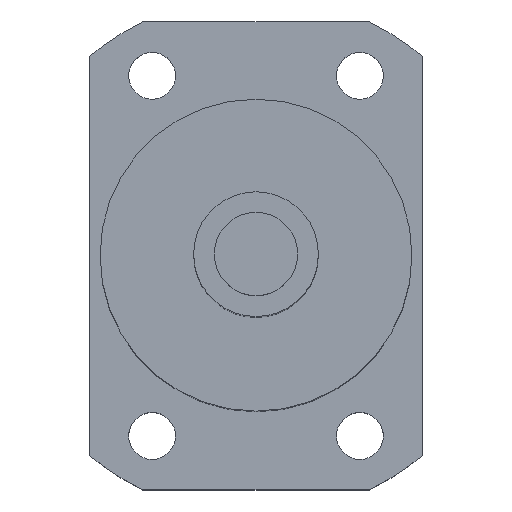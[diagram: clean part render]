
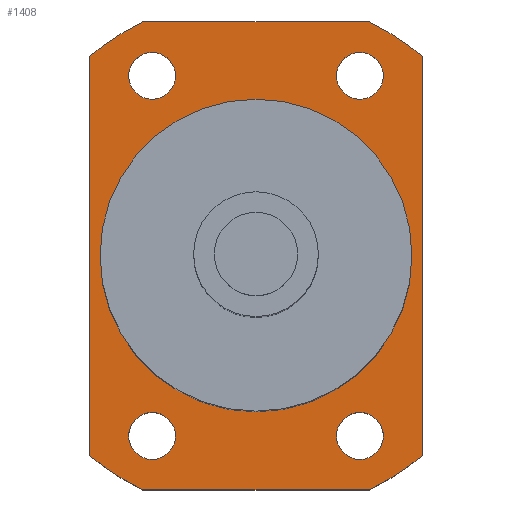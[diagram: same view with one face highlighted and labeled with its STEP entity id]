
A CAD part, top view. The second image highlights one B-rep face of the part: STEP entity #1408.
In plain terms, the highlighted planar face has unit normal (0, 0, 1).
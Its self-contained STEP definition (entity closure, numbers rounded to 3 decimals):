
#328=CARTESIAN_POINT('',(10.,17.321,125.));
#329=DIRECTION('',(0.,0.,-1.));
#330=DIRECTION('',(1.,0.,0.));
#331=AXIS2_PLACEMENT_3D('',#328,#329,#330);
#333=CARTESIAN_POINT('',(10.,17.321,125.));
#334=DIRECTION('',(0.,0.,-1.));
#335=DIRECTION('',(-1.,0.,0.));
#336=AXIS2_PLACEMENT_3D('',#333,#334,#335);
#338=CARTESIAN_POINT('',(-10.,17.321,125.));
#339=DIRECTION('',(0.,0.,-1.));
#340=DIRECTION('',(1.,0.,0.));
#341=AXIS2_PLACEMENT_3D('',#338,#339,#340);
#343=CARTESIAN_POINT('',(-10.,17.321,125.));
#344=DIRECTION('',(0.,0.,-1.));
#345=DIRECTION('',(-1.,0.,0.));
#346=AXIS2_PLACEMENT_3D('',#343,#344,#345);
#348=CARTESIAN_POINT('',(10.,-17.321,125.));
#349=DIRECTION('',(0.,0.,-1.));
#350=DIRECTION('',(1.,0.,0.));
#351=AXIS2_PLACEMENT_3D('',#348,#349,#350);
#353=CARTESIAN_POINT('',(10.,-17.321,125.));
#354=DIRECTION('',(0.,0.,-1.));
#355=DIRECTION('',(-1.,0.,0.));
#356=AXIS2_PLACEMENT_3D('',#353,#354,#355);
#358=CARTESIAN_POINT('',(-10.,-17.321,125.));
#359=DIRECTION('',(0.,0.,-1.));
#360=DIRECTION('',(1.,0.,0.));
#361=AXIS2_PLACEMENT_3D('',#358,#359,#360);
#363=CARTESIAN_POINT('',(-10.,-17.321,125.));
#364=DIRECTION('',(0.,0.,-1.));
#365=DIRECTION('',(-1.,0.,0.));
#366=AXIS2_PLACEMENT_3D('',#363,#364,#365);
#368=CARTESIAN_POINT('',(0.,0.,125.));
#369=DIRECTION('',(0.,0.,1.));
#370=DIRECTION('',(1.,0.,0.));
#371=AXIS2_PLACEMENT_3D('',#368,#369,#370);
#373=CARTESIAN_POINT('',(0.,0.,125.));
#374=DIRECTION('',(0.,0.,1.));
#375=DIRECTION('',(-1.,0.,0.));
#376=AXIS2_PLACEMENT_3D('',#373,#374,#375);
#378=DIRECTION('',(1.,0.,0.));
#379=VECTOR('',#378,21.794);
#380=CARTESIAN_POINT('',(-10.897,22.5,125.));
#381=LINE('',#380,#379);
#382=CARTESIAN_POINT('',(0.,0.,125.));
#383=DIRECTION('',(0.,0.,1.));
#384=DIRECTION('',(0.64,0.768,0.));
#385=AXIS2_PLACEMENT_3D('',#382,#383,#384);
#387=DIRECTION('',(0.,1.,0.));
#388=VECTOR('',#387,38.419);
#389=CARTESIAN_POINT('',(16.,-19.209,125.));
#390=LINE('',#389,#388);
#391=CARTESIAN_POINT('',(0.,0.,125.));
#392=DIRECTION('',(0.,0.,1.));
#393=DIRECTION('',(0.436,-0.9,0.));
#394=AXIS2_PLACEMENT_3D('',#391,#392,#393);
#396=DIRECTION('',(1.,0.,0.));
#397=VECTOR('',#396,21.794);
#398=CARTESIAN_POINT('',(-10.897,-22.5,125.));
#399=LINE('',#398,#397);
#400=CARTESIAN_POINT('',(0.,0.,125.));
#401=DIRECTION('',(0.,0.,1.));
#402=DIRECTION('',(-0.64,-0.768,0.));
#403=AXIS2_PLACEMENT_3D('',#400,#401,#402);
#405=DIRECTION('',(0.,-1.,0.));
#406=VECTOR('',#405,38.419);
#407=CARTESIAN_POINT('',(-16.,19.209,125.));
#408=LINE('',#407,#406);
#409=CARTESIAN_POINT('',(0.,0.,125.));
#410=DIRECTION('',(0.,0.,1.));
#411=DIRECTION('',(-0.436,0.9,0.));
#412=AXIS2_PLACEMENT_3D('',#409,#410,#411);
#721=CARTESIAN_POINT('',(12.25,17.321,125.));
#722=CARTESIAN_POINT('',(7.75,17.321,125.));
#723=VERTEX_POINT('',#721);
#724=VERTEX_POINT('',#722);
#725=CARTESIAN_POINT('',(-7.75,17.321,125.));
#726=CARTESIAN_POINT('',(-12.25,17.321,125.));
#727=VERTEX_POINT('',#725);
#728=VERTEX_POINT('',#726);
#729=CARTESIAN_POINT('',(12.25,-17.321,125.));
#730=CARTESIAN_POINT('',(7.75,-17.321,125.));
#731=VERTEX_POINT('',#729);
#732=VERTEX_POINT('',#730);
#733=CARTESIAN_POINT('',(-7.75,-17.321,125.));
#734=CARTESIAN_POINT('',(-12.25,-17.321,125.));
#735=VERTEX_POINT('',#733);
#736=VERTEX_POINT('',#734);
#737=CARTESIAN_POINT('',(-16.,19.209,125.));
#738=CARTESIAN_POINT('',(-16.,-19.209,125.));
#739=VERTEX_POINT('',#737);
#740=VERTEX_POINT('',#738);
#741=CARTESIAN_POINT('',(16.,-19.209,125.));
#742=CARTESIAN_POINT('',(16.,19.209,125.));
#743=VERTEX_POINT('',#741);
#744=VERTEX_POINT('',#742);
#753=CARTESIAN_POINT('',(15.,0.,125.));
#754=CARTESIAN_POINT('',(-15.,0.,125.));
#755=VERTEX_POINT('',#753);
#756=VERTEX_POINT('',#754);
#829=CARTESIAN_POINT('',(-10.897,22.5,125.));
#830=CARTESIAN_POINT('',(10.897,22.5,125.));
#831=VERTEX_POINT('',#829);
#832=VERTEX_POINT('',#830);
#833=CARTESIAN_POINT('',(-10.897,-22.5,125.));
#834=CARTESIAN_POINT('',(10.897,-22.5,125.));
#835=VERTEX_POINT('',#833);
#836=VERTEX_POINT('',#834);
#1357=CARTESIAN_POINT('',(0.,0.,125.));
#1358=DIRECTION('',(0.,0.,1.));
#1359=DIRECTION('',(1.,0.,0.));
#1360=AXIS2_PLACEMENT_3D('',#1357,#1358,#1359);
#1361=PLANE('',#1360);
#1363=ORIENTED_EDGE('',*,*,#1362,.T.);
#1365=ORIENTED_EDGE('',*,*,#1364,.F.);
#1367=ORIENTED_EDGE('',*,*,#1366,.F.);
#1369=ORIENTED_EDGE('',*,*,#1368,.F.);
#1371=ORIENTED_EDGE('',*,*,#1370,.F.);
#1373=ORIENTED_EDGE('',*,*,#1372,.F.);
#1375=ORIENTED_EDGE('',*,*,#1374,.F.);
#1377=ORIENTED_EDGE('',*,*,#1376,.F.);
#1378=EDGE_LOOP('',(#1363,#1365,#1367,#1369,#1371,#1373,#1375,#1377));
#1379=FACE_OUTER_BOUND('',#1378,.F.);
#1380=ORIENTED_EDGE('',*,*,#1337,.F.);
#1381=ORIENTED_EDGE('',*,*,#1351,.F.);
#1382=EDGE_LOOP('',(#1380,#1381));
#1383=FACE_BOUND('',#1382,.F.);
#1385=ORIENTED_EDGE('',*,*,#1384,.F.);
#1387=ORIENTED_EDGE('',*,*,#1386,.F.);
#1388=EDGE_LOOP('',(#1385,#1387));
#1389=FACE_BOUND('',#1388,.F.);
#1391=ORIENTED_EDGE('',*,*,#1390,.F.);
#1393=ORIENTED_EDGE('',*,*,#1392,.F.);
#1394=EDGE_LOOP('',(#1391,#1393));
#1395=FACE_BOUND('',#1394,.F.);
#1397=ORIENTED_EDGE('',*,*,#1396,.F.);
#1399=ORIENTED_EDGE('',*,*,#1398,.F.);
#1400=EDGE_LOOP('',(#1397,#1399));
#1401=FACE_BOUND('',#1400,.F.);
#1403=ORIENTED_EDGE('',*,*,#1402,.T.);
#1405=ORIENTED_EDGE('',*,*,#1404,.T.);
#1406=EDGE_LOOP('',(#1403,#1405));
#1407=FACE_BOUND('',#1406,.F.);
#1408=ADVANCED_FACE('',(#1379,#1383,#1389,#1395,#1401,#1407),#1361,.T.);
#332=CIRCLE('',#331,2.25);
#337=CIRCLE('',#336,2.25);
#342=CIRCLE('',#341,2.25);
#347=CIRCLE('',#346,2.25);
#352=CIRCLE('',#351,2.25);
#357=CIRCLE('',#356,2.25);
#362=CIRCLE('',#361,2.25);
#367=CIRCLE('',#366,2.25);
#372=CIRCLE('',#371,15.);
#377=CIRCLE('',#376,15.);
#386=CIRCLE('',#385,25.);
#395=CIRCLE('',#394,25.);
#404=CIRCLE('',#403,25.);
#413=CIRCLE('',#412,25.);
#1337=EDGE_CURVE('',#723,#724,#332,.T.);
#1351=EDGE_CURVE('',#724,#723,#337,.T.);
#1362=EDGE_CURVE('',#831,#832,#381,.T.);
#1364=EDGE_CURVE('',#744,#832,#386,.T.);
#1366=EDGE_CURVE('',#743,#744,#390,.T.);
#1368=EDGE_CURVE('',#836,#743,#395,.T.);
#1370=EDGE_CURVE('',#835,#836,#399,.T.);
#1372=EDGE_CURVE('',#740,#835,#404,.T.);
#1374=EDGE_CURVE('',#739,#740,#408,.T.);
#1376=EDGE_CURVE('',#831,#739,#413,.T.);
#1384=EDGE_CURVE('',#727,#728,#342,.T.);
#1386=EDGE_CURVE('',#728,#727,#347,.T.);
#1390=EDGE_CURVE('',#731,#732,#352,.T.);
#1392=EDGE_CURVE('',#732,#731,#357,.T.);
#1396=EDGE_CURVE('',#735,#736,#362,.T.);
#1398=EDGE_CURVE('',#736,#735,#367,.T.);
#1402=EDGE_CURVE('',#755,#756,#372,.T.);
#1404=EDGE_CURVE('',#756,#755,#377,.T.);
